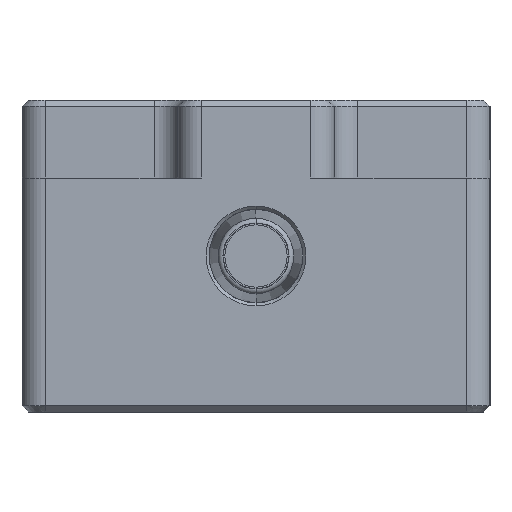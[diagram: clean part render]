
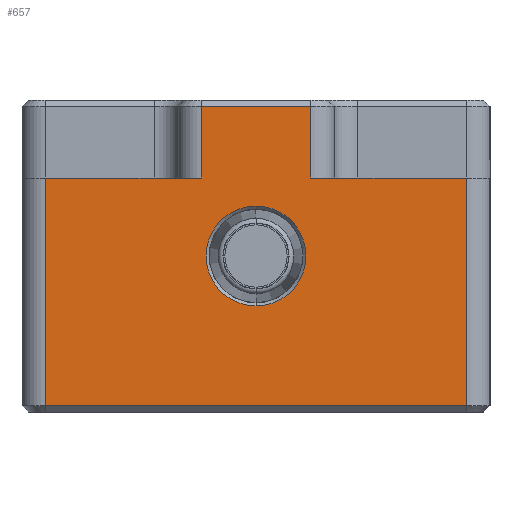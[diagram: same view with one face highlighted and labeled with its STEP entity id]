
A CAD part, front view. The second image highlights one B-rep face of the part: STEP entity #657.
In plain terms, the highlighted planar face has unit normal (0, -1, 0).
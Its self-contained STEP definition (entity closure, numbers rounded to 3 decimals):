
#67 = VECTOR ( 'NONE', #1811, 1000. ) ;
#96 = CARTESIAN_POINT ( 'NONE',  ( -15., -35., 10. ) ) ;
#106 = PLANE ( 'NONE',  #2611 ) ;
#119 = ORIENTED_EDGE ( 'NONE', *, *, #1810, .T. ) ;
#136 = VERTEX_POINT ( 'NONE', #2675 ) ;
#157 = CARTESIAN_POINT ( 'NONE',  ( 13.5, -35., 10. ) ) ;
#209 = ORIENTED_EDGE ( 'NONE', *, *, #2299, .T. ) ;
#222 = ORIENTED_EDGE ( 'NONE', *, *, #2363, .T. ) ;
#241 = ORIENTED_EDGE ( 'NONE', *, *, #1623, .T. ) ;
#244 = FACE_BOUND ( 'NONE', #770, .T. ) ;
#261 = VERTEX_POINT ( 'NONE', #1762 ) ;
#369 = CARTESIAN_POINT ( 'NONE',  ( 0., -35., 0. ) ) ;
#415 = CIRCLE ( 'NONE', #2048, 3.2 ) ;
#422 = ORIENTED_EDGE ( 'NONE', *, *, #671, .T. ) ;
#424 = EDGE_CURVE ( 'NONE', #1382, #648, #1602, .T. ) ;
#457 = DIRECTION ( 'NONE',  ( 0., 1., 0. ) ) ;
#462 = DIRECTION ( 'NONE',  ( -1., 0., 0. ) ) ;
#534 = VECTOR ( 'NONE', #1720, 1000. ) ;
#563 = VECTOR ( 'NONE', #624, 1000. ) ;
#607 = VERTEX_POINT ( 'NONE', #2268 ) ;
#624 = DIRECTION ( 'NONE',  ( 0., 0., -1. ) ) ;
#627 = DIRECTION ( 'NONE',  ( 0., 1., 0. ) ) ;
#648 = VERTEX_POINT ( 'NONE', #2520 ) ;
#657 = ADVANCED_FACE ( 'NONE', ( #244, #2352 ), #106, .F. ) ;
#671 = EDGE_CURVE ( 'NONE', #949, #1556, #984, .T. ) ;
#737 = EDGE_CURVE ( 'NONE', #2060, #2663, #1134, .T. ) ;
#743 = CARTESIAN_POINT ( 'NONE',  ( -3.5, -35., 10. ) ) ;
#770 = EDGE_LOOP ( 'NONE', ( #422, #241 ) ) ;
#840 = CARTESIAN_POINT ( 'NONE',  ( -3.5, -35., 9.6 ) ) ;
#869 = CARTESIAN_POINT ( 'NONE',  ( -15., -35., 5. ) ) ;
#874 = DIRECTION ( 'NONE',  ( 0., 0., 1. ) ) ;
#908 = ORIENTED_EDGE ( 'NONE', *, *, #2487, .T. ) ;
#919 = LINE ( 'NONE', #1231, #2699 ) ;
#949 = VERTEX_POINT ( 'NONE', #2317 ) ;
#984 = CIRCLE ( 'NONE', #2741, 3.2 ) ;
#995 = DIRECTION ( 'NONE',  ( 0., 1., 0. ) ) ;
#1084 = LINE ( 'NONE', #157, #2174 ) ;
#1134 = LINE ( 'NONE', #869, #534 ) ;
#1231 = CARTESIAN_POINT ( 'NONE',  ( 15., -35., 5. ) ) ;
#1271 = CARTESIAN_POINT ( 'NONE',  ( -13.5, -35., 10. ) ) ;
#1274 = DIRECTION ( 'NONE',  ( 0., 0., 1. ) ) ;
#1382 = VERTEX_POINT ( 'NONE', #2121 ) ;
#1392 = LINE ( 'NONE', #743, #67 ) ;
#1418 = DIRECTION ( 'NONE',  ( 0., 0., 1. ) ) ;
#1528 = LINE ( 'NONE', #840, #1618 ) ;
#1533 = LINE ( 'NONE', #1271, #563 ) ;
#1546 = ORIENTED_EDGE ( 'NONE', *, *, #2253, .F. ) ;
#1556 = VERTEX_POINT ( 'NONE', #2535 ) ;
#1602 = LINE ( 'NONE', #2745, #2037 ) ;
#1606 = CARTESIAN_POINT ( 'NONE',  ( 0., -35., 0. ) ) ;
#1618 = VECTOR ( 'NONE', #462, 1000. ) ;
#1623 = EDGE_CURVE ( 'NONE', #1556, #949, #415, .T. ) ;
#1639 = CARTESIAN_POINT ( 'NONE',  ( -3.5, -35., 5. ) ) ;
#1642 = DIRECTION ( 'NONE',  ( 1., 0., 0. ) ) ;
#1684 = LINE ( 'NONE', #2300, #1929 ) ;
#1720 = DIRECTION ( 'NONE',  ( 1., 0., 0. ) ) ;
#1762 = CARTESIAN_POINT ( 'NONE',  ( -3.5, -35., 9.6 ) ) ;
#1810 = EDGE_CURVE ( 'NONE', #2294, #261, #1528, .T. ) ;
#1811 = DIRECTION ( 'NONE',  ( 0., 0., -1. ) ) ;
#1929 = VECTOR ( 'NONE', #1418, 1000. ) ;
#2037 = VECTOR ( 'NONE', #2314, 1000. ) ;
#2048 = AXIS2_PLACEMENT_3D ( 'NONE', #369, #627, #1274 ) ;
#2060 = VERTEX_POINT ( 'NONE', #2628 ) ;
#2121 = CARTESIAN_POINT ( 'NONE',  ( -13.5, -35., -9.6 ) ) ;
#2174 = VECTOR ( 'NONE', #874, 1000. ) ;
#2201 = DIRECTION ( 'NONE',  ( 0., 0., 1. ) ) ;
#2253 = EDGE_CURVE ( 'NONE', #607, #136, #919, .T. ) ;
#2268 = CARTESIAN_POINT ( 'NONE',  ( 3.5, -35., 5. ) ) ;
#2294 = VERTEX_POINT ( 'NONE', #2724 ) ;
#2299 = EDGE_CURVE ( 'NONE', #607, #2294, #1684, .T. ) ;
#2300 = CARTESIAN_POINT ( 'NONE',  ( 3.5, -35., 10. ) ) ;
#2314 = DIRECTION ( 'NONE',  ( 1., 0., 0. ) ) ;
#2317 = CARTESIAN_POINT ( 'NONE',  ( 0., -35., -3.2 ) ) ;
#2352 = FACE_OUTER_BOUND ( 'NONE', #2748, .T. ) ;
#2363 = EDGE_CURVE ( 'NONE', #648, #136, #1084, .T. ) ;
#2441 = EDGE_CURVE ( 'NONE', #2060, #1382, #1533, .T. ) ;
#2487 = EDGE_CURVE ( 'NONE', #261, #2663, #1392, .T. ) ;
#2520 = CARTESIAN_POINT ( 'NONE',  ( 13.5, -35., -9.6 ) ) ;
#2535 = CARTESIAN_POINT ( 'NONE',  ( 0., -35., 3.2 ) ) ;
#2607 = ORIENTED_EDGE ( 'NONE', *, *, #424, .T. ) ;
#2611 = AXIS2_PLACEMENT_3D ( 'NONE', #96, #995, #2717 ) ;
#2628 = CARTESIAN_POINT ( 'NONE',  ( -13.5, -35., 5. ) ) ;
#2663 = VERTEX_POINT ( 'NONE', #1639 ) ;
#2668 = ORIENTED_EDGE ( 'NONE', *, *, #2441, .T. ) ;
#2675 = CARTESIAN_POINT ( 'NONE',  ( 13.5, -35., 5. ) ) ;
#2699 = VECTOR ( 'NONE', #1642, 1000. ) ;
#2717 = DIRECTION ( 'NONE',  ( 0., 0., 1. ) ) ;
#2724 = CARTESIAN_POINT ( 'NONE',  ( 3.5, -35., 9.6 ) ) ;
#2741 = AXIS2_PLACEMENT_3D ( 'NONE', #1606, #457, #2201 ) ;
#2742 = ORIENTED_EDGE ( 'NONE', *, *, #737, .F. ) ;
#2745 = CARTESIAN_POINT ( 'NONE',  ( -15., -35., -9.6 ) ) ;
#2748 = EDGE_LOOP ( 'NONE', ( #2668, #2607, #222, #1546, #209, #119, #908, #2742 ) ) ;
